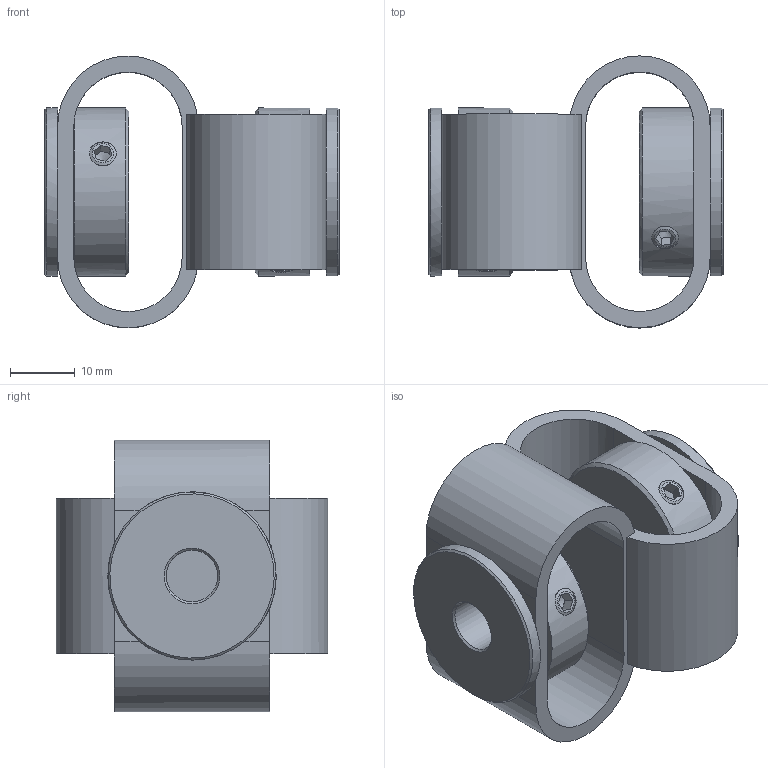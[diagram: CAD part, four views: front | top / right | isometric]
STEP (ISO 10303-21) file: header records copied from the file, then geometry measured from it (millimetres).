
FILE_DESCRIPTION(/* description */ (''),/* implementation_level */ '2;1');
FILE_NAME(/* name */ 'E:\ABP_bauteile\Doppelschlaufenkupplung\DKPS_4848\Doppelschlaufenkupplung_DKPS_4848_06_08.stp',/* time_stamp */ '2015-03-13T13:50:00+01:00',/* author */ ('Rob'),/* organization */ (''),/* preprocessor_version */ 'ST-DEVELOPER v15.6',/* originating_system */ 'Autodesk Inventor 2015',/* authorisation */ '');
FILE_SCHEMA (('CONFIG_CONTROL_DESIGN'));
Length unit declared in the file: millimetre
Products named in the file (1): Bauteil7
Bounding box: 45.55 x 42.03 x 42.03 mm (x, y, z)
Volume: 20620.4 mm3; surface area: 13440.8 mm2
Topology: 1 solids, 2 shells, 138 faces, 320 edges, 192 vertices
Faces by surface type: plane 83, cone 28, cylinder 27
Full cylindrical faces by diameter (mm): 4.134 x8, 6 x1, 8 x1, 16.5 x2, 18 x3, 26 x4
Entity records: 3670 total; most frequent: CARTESIAN_POINT 873, DIRECTION 604, ORIENTED_EDGE 482, AXIS2_PLACEMENT_3D 242, EDGE_CURVE 241, EDGE_LOOP 202, VERTEX_POINT 157, FACE_OUTER_BOUND 138
